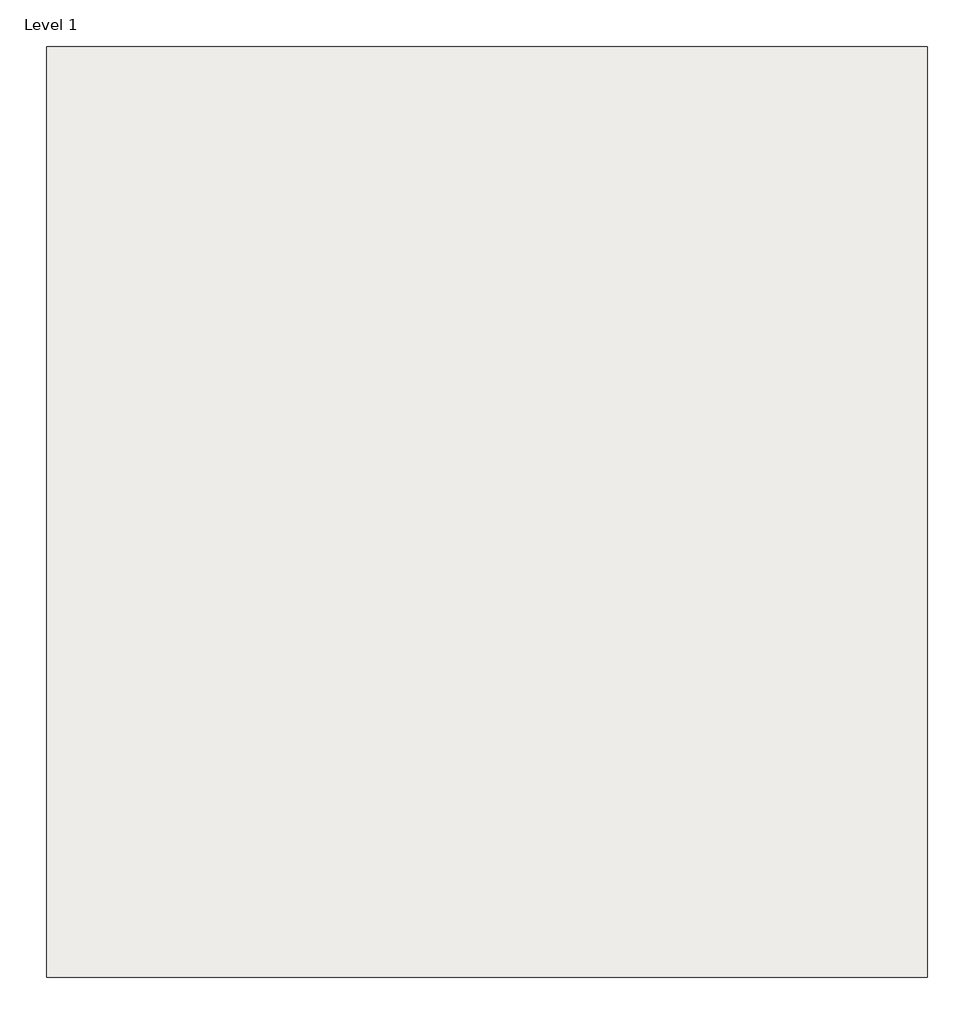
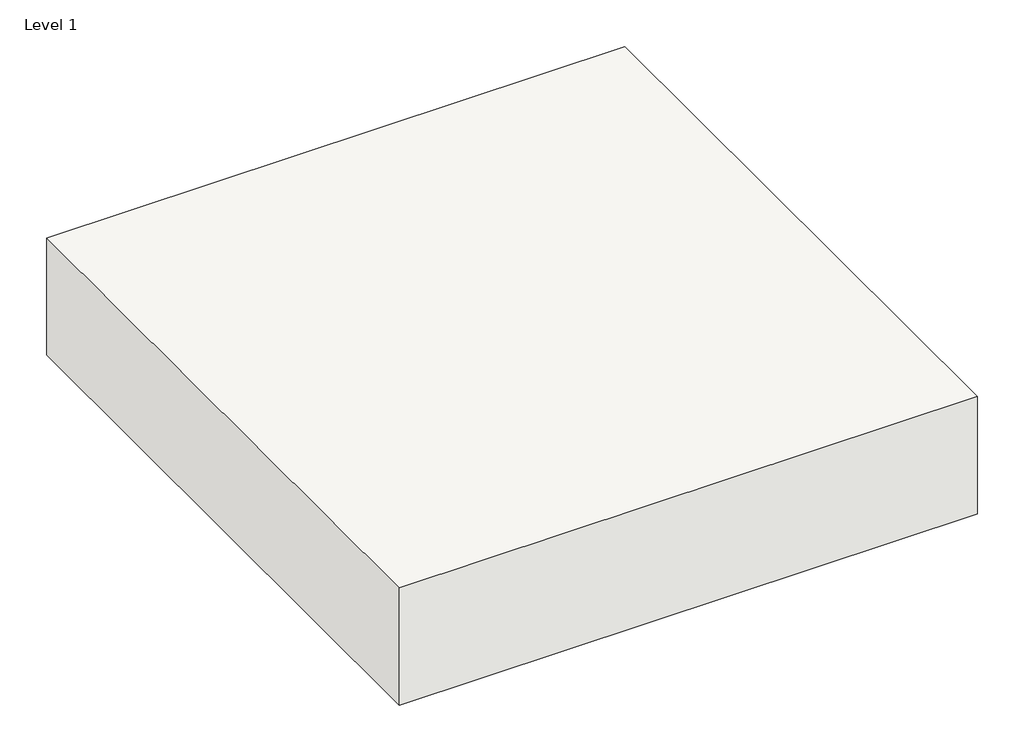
# One storey, incomplete: 1 slab.
"""IFC4 building model written with IfcOpenShell, lengths in millimetres."""

import ifcopenshell
import ifcopenshell.guid

model = None  # the IFC model being written
_history = None  # IfcOwnerHistory: only IFC2X3 demands one
_inside = {}  # id of a spatial element -> (the spatial element, [elements in it])
_under = {}  # id of a project, library or spatial element -> (it, [spatial elements below it])
_declared = {}  # id of a project -> (the project, [libraries it declares])
_typed = {}  # id of a type object -> (the type object, [elements of that type])
_made_of = {}  # id of a material, layer set ... -> (it, [elements and type objects made of it])


def new_model(schema):
    """Start an empty IFC model of exactly this schema.

    Asked for "IFC4X3", IfcOpenShell would pick the latest addendum, in which some entities
    have other attributes; the version numbers below select the first issue.
    IFC2X3 requires an IfcOwnerHistory on every rooted entity: one is made here for all.
    """
    global model, _history
    if schema == "IFC4X3":
        model = ifcopenshell.file(schema_version=(4, 3, 0, 0))
    else:
        model = ifcopenshell.file(schema=schema)
    _inside.clear()
    _under.clear()
    _declared.clear()
    _typed.clear()
    _made_of.clear()
    _history = None
    if model.schema == "IFC2X3":
        org = make("IfcOrganization", Name="unknown")
        user = make(
            "IfcPersonAndOrganization",
            ThePerson=make("IfcPerson", FamilyName="unknown"),
            TheOrganization=org,
        )
        app = make(
            "IfcApplication",
            ApplicationDeveloper=org,
            Version="unknown",
            ApplicationFullName="unknown",
            ApplicationIdentifier="unknown",
        )
        _history = make(
            "IfcOwnerHistory",
            OwningUser=user,
            OwningApplication=app,
            ChangeAction="ADDED",
            CreationDate=0,
        )
    return model


def make(cls, **values):
    """One entity of the class cls with the attributes given. An attribute that is None is left unset."""
    return model.create_entity(
        cls, **{name: value for name, value in values.items() if value is not None}
    )


def rooted(cls, **values):
    """An entity with a GlobalId (a new one), such as an element, a storey or a relation."""
    return make(cls, GlobalId=ifcopenshell.guid.new(), OwnerHistory=_history, **values)


def si_unit(unit_type, name, prefix=None):
    """IfcSIUnit, for example si_unit("LENGTHUNIT", "METRE", prefix="MILLI")."""
    return make("IfcSIUnit", UnitType=unit_type, Prefix=prefix, Name=name)


def assignment(units):
    """IfcUnitAssignment: the units of a project."""
    return None if units is None else make("IfcUnitAssignment", Units=units)


def point(xyz):
    """IfcCartesianPoint."""
    return None if xyz is None else make("IfcCartesianPoint", Coordinates=xyz)


def direction(xyz):
    """IfcDirection."""
    return None if xyz is None else make("IfcDirection", DirectionRatios=xyz)


def frame(location, z_axis=None, x_axis=None):
    """IfcAxis2Placement3D, a coordinate frame: its origin and axes. An axis left out is left unset."""
    return make(
        "IfcAxis2Placement3D",
        Location=point(location),
        Axis=direction(z_axis),
        RefDirection=direction(x_axis),
    )


def origin():
    """The frame at (0, 0, 0) with its axes left unset."""
    return frame((0.0, 0.0, 0.0))


def place(relative_to, where):
    """IfcLocalPlacement: puts the frame where relative to a parent placement (None: the world)."""
    return make(
        "IfcLocalPlacement", PlacementRelTo=relative_to, RelativePlacement=where
    )


def context(
    kind, dimensions, precision=None, world=None, true_north=None, identifier=None
):
    """IfcGeometricRepresentationContext, for example the 3D "Model" context."""
    return make(
        "IfcGeometricRepresentationContext",
        ContextIdentifier=identifier,
        ContextType=kind,
        CoordinateSpaceDimension=dimensions,
        Precision=precision,
        WorldCoordinateSystem=world,
        TrueNorth=true_north,
    )


def project(units=None, contexts=None):
    """IfcProject with its units and contexts."""
    return rooted(
        "IfcProject",
        Name="project",
        RepresentationContexts=contexts,
        UnitsInContext=assignment(units),
    )


def spatial(cls, under=None, at=None, **own):
    """A site, building, storey or space (cls), placed at a placement, below another one or the project."""
    s = rooted(cls, ObjectPlacement=at, **own)
    if under is not None:
        _under.setdefault(under.id(), (under, []))[1].append(s)
    return s


def polyline(points):
    """IfcPolyline through the points."""
    return make("IfcPolyline", Points=[point(p) for p in points])


def outline(outer, holes=None, kind="AREA"):
    """IfcArbitraryClosedProfileDef: a profile drawn as a closed curve; with holes, ...WithVoids."""
    if holes is None:
        return make("IfcArbitraryClosedProfileDef", ProfileType=kind, OuterCurve=outer)
    return make(
        "IfcArbitraryProfileDefWithVoids",
        ProfileType=kind,
        OuterCurve=outer,
        InnerCurves=holes,
    )


def extrude(swept, where, along, depth):
    """IfcExtrudedAreaSolid: the profile swept, set in the frame where, extruded along a direction by depth."""
    return make(
        "IfcExtrudedAreaSolid",
        SweptArea=swept,
        Position=where,
        ExtrudedDirection=direction(along),
        Depth=depth,
    )


def shape(context_of_items, identifier, shape_type, items):
    """IfcShapeRepresentation: the items that make up one representation, for example the "Body"."""
    return make(
        "IfcShapeRepresentation",
        ContextOfItems=context_of_items,
        RepresentationIdentifier=identifier,
        RepresentationType=shape_type,
        Items=items,
    )


def made_of(thing, what):
    """Note that an element or type object is made of a material, layer set ...; save() writes the relation."""
    if what is not None:
        _made_of.setdefault(what.id(), (what, []))[1].append(thing)
    return thing


def element(
    cls,
    number,
    at=None,
    inside=None,
    cuts=None,
    type_object=None,
    material=None,
    context=None,
    identifier="Body",
    shape_type=None,
    held_by="IfcProductDefinitionShape",
    body=None,
    shapes=None,
    **own,
):
    """One element of the class cls, such as IfcWall. Its Tag is "e" and its number.

    at: its placement. inside: the storey or other place that contains it. cuts: it is an
    opening in that element (IfcRelVoidsElement). A single representation is given by context,
    identifier, shape_type and body (its items); several are given by shapes. held_by: the class
    of the entity that holds the representations. save() writes the other relations.
    """
    e = rooted(cls, Tag="e%d" % number, ObjectPlacement=at, **own)
    if body is not None:
        shapes = [shape(context, identifier, shape_type, body)]
    if shapes is not None:
        e.Representation = make(held_by, Representations=shapes)
    if inside is not None:
        _inside.setdefault(inside.id(), (inside, []))[1].append(e)
    if cuts is not None:
        rooted(
            "IfcRelVoidsElement", RelatingBuildingElement=cuts, RelatedOpeningElement=e
        )
    if type_object is not None:
        _typed.setdefault(type_object.id(), (type_object, []))[1].append(e)
    return made_of(e, material)


def aggregate(whole, parts):
    """IfcRelAggregates: a whole, such as a stair, and the parts it consists of."""
    return rooted("IfcRelAggregates", RelatingObject=whole, RelatedObjects=parts)


def save(model, path):
    """Write the relations noted so far, then the file.

    IfcRelAggregates (storeys below a building ...), IfcRelContainedInSpatialStructure (elements
    in a storey), IfcRelDefinesByType, IfcRelAssociatesMaterial and IfcRelDeclares: one each for
    every whole, place, type object, material and project.
    """
    for whole, parts in _under.values():
        aggregate(whole, parts)
    for where, things in _inside.values():
        rooted(
            "IfcRelContainedInSpatialStructure",
            RelatedElements=things,
            RelatingStructure=where,
        )
    for kind, things in _typed.values():
        rooted("IfcRelDefinesByType", RelatedObjects=things, RelatingType=kind)
    for what, things in _made_of.values():
        rooted("IfcRelAssociatesMaterial", RelatedObjects=things, RelatingMaterial=what)
    for by, libraries in _declared.values():
        rooted("IfcRelDeclares", RelatingContext=by, RelatedDefinitions=libraries)
    model.write(path)


model = new_model("IFC4")

# Units and contexts
model_context = context("Model", 3, world=origin())
ifc_project = project(units=[si_unit("LENGTHUNIT", "METRE", prefix="MILLI")], contexts=[model_context])

# Site, building, storey
site = spatial("IfcSite", under=ifc_project)
building = spatial("IfcBuilding", under=site)
storey = spatial("IfcBuildingStorey", under=building, Name="Level 1", Elevation=0.0)

# Slab
placement = place(None, origin())
element("IfcSlab", 1, ObjectType="Generic - 12\"", at=placement, inside=storey, context=model_context, shape_type="SweptSolid", body=[
    extrude(outline(polyline([(-17588.4242006, 14637.2598675), (-17588.4242006, 13137.2598675), (-19008.4242006, 13137.2598675), (-19008.4242006, 14637.2598675), (-17588.4242006, 14637.2598675)])), frame((0.0, 0.0, -304.8), z_axis=(0.0, 0.0, 1.0), x_axis=(1.0, 0.0, 0.0)), (0.0, 0.0, 1.0), 304.8),
])

save(model, "model.ifc")
